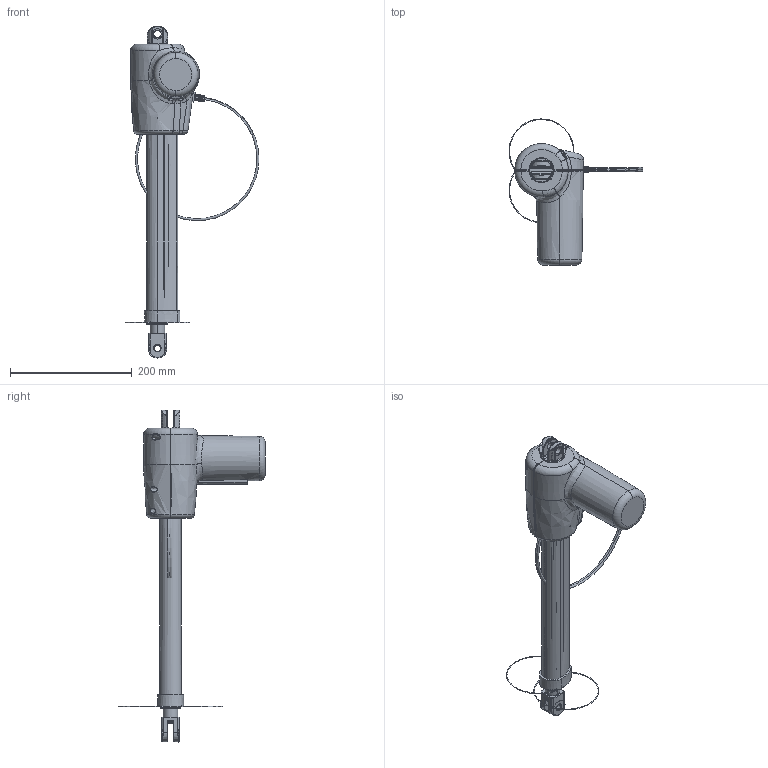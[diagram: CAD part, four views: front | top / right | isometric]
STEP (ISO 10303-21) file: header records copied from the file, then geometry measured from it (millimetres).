
FILE_DESCRIPTION((''),'2;1');
FILE_NAME('ASM0001_ASM','2014-06-04T',('tony'),(''),'PRO/ENGINEER BY PARAMETRIC TECHNOLOGY CORPORATION, 2008090','PRO/ENGINEER BY PARAMETRIC TECHNOLOGY CORPORATION, 2008090','');
FILE_SCHEMA(('CONFIG_CONTROL_DESIGN'));
Products named in the file (7): 3; ZHIGAN_2_1; QIANZHIZUO_1_1; ASM0002_ASM_240_ASM_1_ASM; MD80_ASM_1_ASM; 4_ASM; ASM0001_ASM
Assembly tree (6 placements, depth 5):
  ASM0001_ASM
    3
    4_ASM
      MD80_ASM_1_ASM
        ASM0002_ASM_240_ASM_1_ASM
          ZHIGAN_2_1
          QIANZHIZUO_1_1
Bounding box: 220.48 x 241.31 x 546.47 mm (x, y, z)
Surface area: 502558.3 mm2 (no closed solid volume)
Topology: 0 solids, 0 shells, 1446 faces, 8305 edges, 8228 vertices
Faces by surface type: bspline 1340, torus 86, sphere 20
Entity records: 175452 total; most frequent: CARTESIAN_POINT 106027, DIRECTION 10395, TRIMMED_CURVE 8832, DEFINITIONAL_REPRESENTATION 8171, PCURVE 8171, COMPOSITE_CURVE_SEGMENT 8171, VECTOR 7515, LINE 7515
